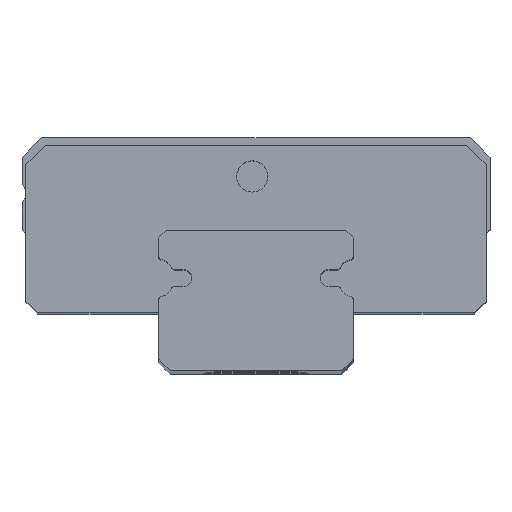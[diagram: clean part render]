
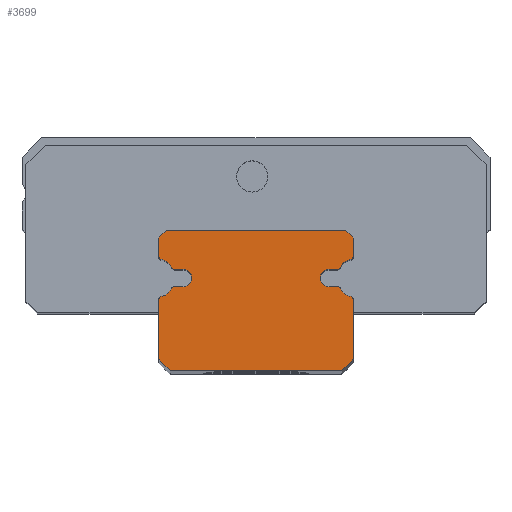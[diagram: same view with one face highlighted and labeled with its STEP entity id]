
A CAD part, top view. The second image highlights one B-rep face of the part: STEP entity #3699.
In plain terms, the highlighted planar face has unit normal (0, 0, 1).
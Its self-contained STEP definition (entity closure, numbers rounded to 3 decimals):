
#2538=DIRECTION('',(1.,0.,0.));
#2539=VECTOR('',#2538,0.219);
#2540=CARTESIAN_POINT('',(40.56,-300.656,20.2));
#2541=LINE('',#2540,#2539);
#2542=CARTESIAN_POINT('',(40.56,-300.881,20.2));
#2543=DIRECTION('',(0.,0.,-1.));
#2544=DIRECTION('',(0.,-1.,0.));
#2545=AXIS2_PLACEMENT_3D('',#2542,#2543,#2544);
#2547=DIRECTION('',(-1.,0.,0.));
#2548=VECTOR('',#2547,0.219);
#2549=CARTESIAN_POINT('',(40.78,-301.106,20.2));
#2550=LINE('',#2549,#2548);
#2551=CARTESIAN_POINT('',(40.78,-301.206,20.2));
#2552=DIRECTION('',(0.,0.,1.));
#2553=DIRECTION('',(0.832,0.554,0.));
#2554=AXIS2_PLACEMENT_3D('',#2551,#2552,#2553);
#2556=CARTESIAN_POINT('',(41.167,-301.036,20.2));
#2557=DIRECTION('',(0.,0.,-1.));
#2558=DIRECTION('',(-0.142,-0.99,0.));
#2559=AXIS2_PLACEMENT_3D('',#2556,#2557,#2558);
#2561=CARTESIAN_POINT('',(41.085,-301.451,20.2));
#2562=DIRECTION('',(0.,0.,1.));
#2563=DIRECTION('',(1.,0.,0.));
#2564=AXIS2_PLACEMENT_3D('',#2561,#2562,#2563);
#2566=DIRECTION('',(0.,1.,0.));
#2567=VECTOR('',#2566,1.504);
#2568=CARTESIAN_POINT('',(41.185,-302.956,20.2));
#2569=LINE('',#2568,#2567);
#2570=DIRECTION('',(0.707,0.707,0.));
#2571=VECTOR('',#2570,0.424);
#2572=CARTESIAN_POINT('',(40.885,-303.256,20.2));
#2573=LINE('',#2572,#2571);
#2574=DIRECTION('',(1.,0.,0.));
#2575=VECTOR('',#2574,4.4);
#2576=CARTESIAN_POINT('',(36.485,-303.256,20.2));
#2577=LINE('',#2576,#2575);
#2578=DIRECTION('',(0.707,-0.707,0.));
#2579=VECTOR('',#2578,0.424);
#2580=CARTESIAN_POINT('',(36.185,-302.956,20.2));
#2581=LINE('',#2580,#2579);
#2582=DIRECTION('',(0.,-1.,0.));
#2583=VECTOR('',#2582,1.504);
#2584=CARTESIAN_POINT('',(36.185,-301.451,20.2));
#2585=LINE('',#2584,#2583);
#2586=CARTESIAN_POINT('',(36.285,-301.451,20.2));
#2587=DIRECTION('',(0.,0.,1.));
#2588=DIRECTION('',(-0.362,0.932,0.));
#2589=AXIS2_PLACEMENT_3D('',#2586,#2587,#2588);
#2591=CARTESIAN_POINT('',(36.181,-301.009,20.2));
#2592=DIRECTION('',(0.,0.,-1.));
#2593=DIRECTION('',(0.917,-0.398,0.));
#2594=AXIS2_PLACEMENT_3D('',#2591,#2592,#2593);
#2596=CARTESIAN_POINT('',(36.591,-301.206,20.2));
#2597=DIRECTION('',(0.,0.,1.));
#2598=DIRECTION('',(0.,1.,0.));
#2599=AXIS2_PLACEMENT_3D('',#2596,#2597,#2598);
#2601=DIRECTION('',(-1.,0.,0.));
#2602=VECTOR('',#2601,0.219);
#2603=CARTESIAN_POINT('',(36.81,-301.106,20.2));
#2604=LINE('',#2603,#2602);
#2605=CARTESIAN_POINT('',(36.81,-300.881,20.2));
#2606=DIRECTION('',(0.,0.,-1.));
#2607=DIRECTION('',(0.,1.,0.));
#2608=AXIS2_PLACEMENT_3D('',#2605,#2606,#2607);
#2610=DIRECTION('',(1.,0.,0.));
#2611=VECTOR('',#2610,0.219);
#2612=CARTESIAN_POINT('',(36.591,-300.656,20.2));
#2613=LINE('',#2612,#2611);
#2614=CARTESIAN_POINT('',(36.591,-300.556,20.2));
#2615=DIRECTION('',(0.,0.,1.));
#2616=DIRECTION('',(-0.832,-0.554,0.));
#2617=AXIS2_PLACEMENT_3D('',#2614,#2615,#2616);
#2619=CARTESIAN_POINT('',(36.2,-300.729,20.2));
#2620=DIRECTION('',(0.,0.,-1.));
#2621=DIRECTION('',(0.148,0.989,0.));
#2622=AXIS2_PLACEMENT_3D('',#2619,#2620,#2621);
#2624=CARTESIAN_POINT('',(36.285,-300.31,20.2));
#2625=DIRECTION('',(0.,0.,1.));
#2626=DIRECTION('',(-1.,0.,0.));
#2627=AXIS2_PLACEMENT_3D('',#2624,#2625,#2626);
#2629=DIRECTION('',(0.,-1.,0.));
#2630=VECTOR('',#2629,0.454);
#2631=CARTESIAN_POINT('',(36.185,-299.856,20.2));
#2632=LINE('',#2631,#2630);
#2633=DIRECTION('',(-0.707,-0.707,0.));
#2634=VECTOR('',#2633,0.283);
#2635=CARTESIAN_POINT('',(36.385,-299.656,20.2));
#2636=LINE('',#2635,#2634);
#2637=DIRECTION('',(-1.,0.,0.));
#2638=VECTOR('',#2637,4.6);
#2639=CARTESIAN_POINT('',(40.985,-299.656,20.2));
#2640=LINE('',#2639,#2638);
#2641=DIRECTION('',(-0.707,0.707,0.));
#2642=VECTOR('',#2641,0.283);
#2643=CARTESIAN_POINT('',(41.185,-299.856,20.2));
#2644=LINE('',#2643,#2642);
#2645=DIRECTION('',(0.,1.,0.));
#2646=VECTOR('',#2645,0.454);
#2647=CARTESIAN_POINT('',(41.185,-300.31,20.2));
#2648=LINE('',#2647,#2646);
#2649=CARTESIAN_POINT('',(41.085,-300.31,20.2));
#2650=DIRECTION('',(0.,0.,1.));
#2651=DIRECTION('',(0.362,-0.932,0.));
#2652=AXIS2_PLACEMENT_3D('',#2649,#2650,#2651);
#2654=CARTESIAN_POINT('',(41.14,-300.692,20.2));
#2655=DIRECTION('',(0.,0.,-1.));
#2656=DIRECTION('',(-0.961,0.278,0.));
#2657=AXIS2_PLACEMENT_3D('',#2654,#2655,#2656);
#2659=CARTESIAN_POINT('',(40.78,-300.556,20.2));
#2660=DIRECTION('',(0.,0.,1.));
#2661=DIRECTION('',(0.,-1.,0.));
#2662=AXIS2_PLACEMENT_3D('',#2659,#2660,#2661);
#2952=CARTESIAN_POINT('',(40.56,-300.656,20.2));
#2953=CARTESIAN_POINT('',(40.78,-300.656,20.2));
#2954=VERTEX_POINT('',#2952);
#2955=VERTEX_POINT('',#2953);
#2956=CARTESIAN_POINT('',(40.863,-300.611,20.2));
#2957=VERTEX_POINT('',#2956);
#2958=CARTESIAN_POINT('',(41.121,-300.404,20.2));
#2959=VERTEX_POINT('',#2958);
#2960=CARTESIAN_POINT('',(41.185,-300.31,20.2));
#2961=VERTEX_POINT('',#2960);
#2962=CARTESIAN_POINT('',(41.185,-299.856,20.2));
#2963=VERTEX_POINT('',#2962);
#2964=CARTESIAN_POINT('',(40.985,-299.656,20.2));
#2965=VERTEX_POINT('',#2964);
#2966=CARTESIAN_POINT('',(36.385,-299.656,20.2));
#2967=VERTEX_POINT('',#2966);
#2968=CARTESIAN_POINT('',(36.185,-299.856,20.2));
#2969=VERTEX_POINT('',#2968);
#2970=CARTESIAN_POINT('',(36.185,-300.31,20.2));
#2971=VERTEX_POINT('',#2970);
#2972=CARTESIAN_POINT('',(36.249,-300.404,20.2));
#2973=VERTEX_POINT('',#2972);
#2974=CARTESIAN_POINT('',(36.507,-300.611,20.2));
#2975=VERTEX_POINT('',#2974);
#2976=CARTESIAN_POINT('',(36.591,-300.656,20.2));
#2977=VERTEX_POINT('',#2976);
#2978=CARTESIAN_POINT('',(36.81,-300.656,20.2));
#2979=VERTEX_POINT('',#2978);
#2980=CARTESIAN_POINT('',(36.81,-301.106,20.2));
#2981=VERTEX_POINT('',#2980);
#2982=CARTESIAN_POINT('',(36.591,-301.106,20.2));
#2983=VERTEX_POINT('',#2982);
#2984=CARTESIAN_POINT('',(36.507,-301.15,20.2));
#2985=VERTEX_POINT('',#2984);
#2986=CARTESIAN_POINT('',(36.249,-301.358,20.2));
#2987=VERTEX_POINT('',#2986);
#2988=CARTESIAN_POINT('',(36.185,-301.451,20.2));
#2989=VERTEX_POINT('',#2988);
#2990=CARTESIAN_POINT('',(36.185,-302.956,20.2));
#2991=VERTEX_POINT('',#2990);
#2992=CARTESIAN_POINT('',(36.485,-303.256,20.2));
#2993=VERTEX_POINT('',#2992);
#2994=CARTESIAN_POINT('',(40.885,-303.256,20.2));
#2995=VERTEX_POINT('',#2994);
#2996=CARTESIAN_POINT('',(41.185,-302.956,20.2));
#2997=VERTEX_POINT('',#2996);
#2998=CARTESIAN_POINT('',(41.185,-301.451,20.2));
#2999=VERTEX_POINT('',#2998);
#3000=CARTESIAN_POINT('',(41.121,-301.358,20.2));
#3001=VERTEX_POINT('',#3000);
#3002=CARTESIAN_POINT('',(40.863,-301.15,20.2));
#3003=VERTEX_POINT('',#3002);
#3004=CARTESIAN_POINT('',(40.78,-301.106,20.2));
#3005=VERTEX_POINT('',#3004);
#3006=CARTESIAN_POINT('',(40.56,-301.106,20.2));
#3007=VERTEX_POINT('',#3006);
#3664=CARTESIAN_POINT('',(0.,0.,20.2));
#3665=DIRECTION('',(0.,0.,1.));
#3666=DIRECTION('',(1.,0.,0.));
#3667=AXIS2_PLACEMENT_3D('',#3664,#3665,#3666);
#3668=PLANE('',#3667);
#3669=ORIENTED_EDGE('',*,*,#3232,.F.);
#3670=ORIENTED_EDGE('',*,*,#3247,.F.);
#3671=ORIENTED_EDGE('',*,*,#3261,.F.);
#3672=ORIENTED_EDGE('',*,*,#3275,.F.);
#3673=ORIENTED_EDGE('',*,*,#3289,.F.);
#3674=ORIENTED_EDGE('',*,*,#3303,.F.);
#3675=ORIENTED_EDGE('',*,*,#3317,.F.);
#3676=ORIENTED_EDGE('',*,*,#3331,.F.);
#3677=ORIENTED_EDGE('',*,*,#3345,.F.);
#3678=ORIENTED_EDGE('',*,*,#3383,.F.);
#3679=ORIENTED_EDGE('',*,*,#3397,.F.);
#3680=ORIENTED_EDGE('',*,*,#3411,.F.);
#3681=ORIENTED_EDGE('',*,*,#3425,.F.);
#3682=ORIENTED_EDGE('',*,*,#3439,.F.);
#3683=ORIENTED_EDGE('',*,*,#3453,.F.);
#3684=ORIENTED_EDGE('',*,*,#3467,.F.);
#3685=ORIENTED_EDGE('',*,*,#3481,.F.);
#3686=ORIENTED_EDGE('',*,*,#3495,.F.);
#3687=ORIENTED_EDGE('',*,*,#3509,.F.);
#3688=ORIENTED_EDGE('',*,*,#3523,.F.);
#3689=ORIENTED_EDGE('',*,*,#3537,.F.);
#3690=ORIENTED_EDGE('',*,*,#3551,.F.);
#3691=ORIENTED_EDGE('',*,*,#3565,.F.);
#3692=ORIENTED_EDGE('',*,*,#3603,.F.);
#3693=ORIENTED_EDGE('',*,*,#3617,.F.);
#3694=ORIENTED_EDGE('',*,*,#3631,.F.);
#3695=ORIENTED_EDGE('',*,*,#3645,.F.);
#3696=ORIENTED_EDGE('',*,*,#3658,.F.);
#3697=EDGE_LOOP('',(#3669,#3670,#3671,#3672,#3673,#3674,#3675,#3676,#3677,#3678,
#3679,#3680,#3681,#3682,#3683,#3684,#3685,#3686,#3687,#3688,#3689,#3690,#3691,
#3692,#3693,#3694,#3695,#3696));
#3698=FACE_OUTER_BOUND('',#3697,.F.);
#3699=ADVANCED_FACE('',(#3698),#3668,.T.);
#2546=CIRCLE('',#2545,0.225);
#2555=CIRCLE('',#2554,0.1);
#2560=CIRCLE('',#2559,0.325);
#2565=CIRCLE('',#2564,0.1);
#2590=CIRCLE('',#2589,0.1);
#2595=CIRCLE('',#2594,0.356);
#2600=CIRCLE('',#2599,0.1);
#2609=CIRCLE('',#2608,0.225);
#2618=CIRCLE('',#2617,0.1);
#2623=CIRCLE('',#2622,0.329);
#2628=CIRCLE('',#2627,0.1);
#2653=CIRCLE('',#2652,0.1);
#2658=CIRCLE('',#2657,0.289);
#2663=CIRCLE('',#2662,0.1);
#3232=EDGE_CURVE('',#2954,#2955,#2541,.T.);
#3247=EDGE_CURVE('',#3007,#2954,#2546,.T.);
#3261=EDGE_CURVE('',#3005,#3007,#2550,.T.);
#3275=EDGE_CURVE('',#3003,#3005,#2555,.T.);
#3289=EDGE_CURVE('',#3001,#3003,#2560,.T.);
#3303=EDGE_CURVE('',#2999,#3001,#2565,.T.);
#3317=EDGE_CURVE('',#2997,#2999,#2569,.T.);
#3331=EDGE_CURVE('',#2995,#2997,#2573,.T.);
#3345=EDGE_CURVE('',#2993,#2995,#2577,.T.);
#3383=EDGE_CURVE('',#2991,#2993,#2581,.T.);
#3397=EDGE_CURVE('',#2989,#2991,#2585,.T.);
#3411=EDGE_CURVE('',#2987,#2989,#2590,.T.);
#3425=EDGE_CURVE('',#2985,#2987,#2595,.T.);
#3439=EDGE_CURVE('',#2983,#2985,#2600,.T.);
#3453=EDGE_CURVE('',#2981,#2983,#2604,.T.);
#3467=EDGE_CURVE('',#2979,#2981,#2609,.T.);
#3481=EDGE_CURVE('',#2977,#2979,#2613,.T.);
#3495=EDGE_CURVE('',#2975,#2977,#2618,.T.);
#3509=EDGE_CURVE('',#2973,#2975,#2623,.T.);
#3523=EDGE_CURVE('',#2971,#2973,#2628,.T.);
#3537=EDGE_CURVE('',#2969,#2971,#2632,.T.);
#3551=EDGE_CURVE('',#2967,#2969,#2636,.T.);
#3565=EDGE_CURVE('',#2965,#2967,#2640,.T.);
#3603=EDGE_CURVE('',#2963,#2965,#2644,.T.);
#3617=EDGE_CURVE('',#2961,#2963,#2648,.T.);
#3631=EDGE_CURVE('',#2959,#2961,#2653,.T.);
#3645=EDGE_CURVE('',#2957,#2959,#2658,.T.);
#3658=EDGE_CURVE('',#2955,#2957,#2663,.T.);
